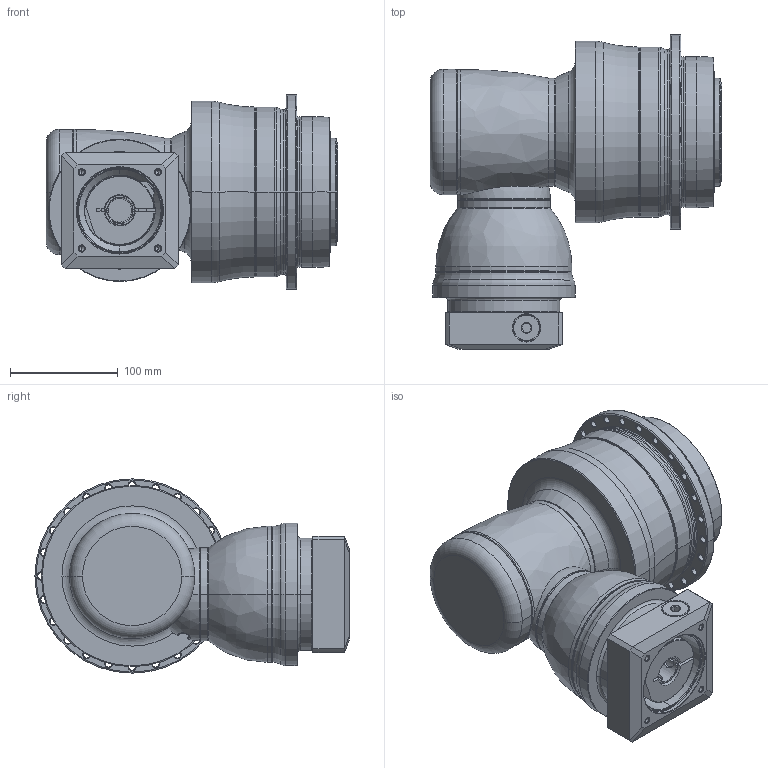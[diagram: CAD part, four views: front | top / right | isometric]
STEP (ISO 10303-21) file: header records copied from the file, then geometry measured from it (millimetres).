
FILE_DESCRIPTION((''),'2;1');
FILE_NAME('APK140_3ST_24-P0409510201_ASM','2018-07-12T',('D00080'),(''),'PRO/ENGINEER BY PARAMETRIC TECHNOLOGY CORPORATION, 2008170','PRO/ENGINEER BY PARAMETRIC TECHNOLOGY CORPORATION, 2008170','');
FILE_SCHEMA(('CONFIG_CONTROL_DESIGN'));
Length unit declared in the file: millimetre
Products named in the file (13): P1008400002; P1832500001; P0278501003; P0359501103; P1211500001; P1315400001; P1007401001; P1318410101; P0503500010; P0129451001; P0409510201; 21711418017; APK140_3ST_24-P0409510201_ASM
Assembly tree (12 placements, depth 2):
  APK140_3ST_24-P0409510201_ASM
    P1008400002
    P1832500001
    P0278501003
    P0359501103
    P1211500001
    P1315400001
    P1007401001
    P1318410101
    P0503500010
    P0129451001
    P0409510201
    21711418017
Bounding box: 270.3 x 291 x 180 mm (x, y, z)
Volume: 5020147.1 mm3; surface area: 545376.7 mm2
Topology: 13 solids, 38 shells, 781 faces, 1777 edges, 1069 vertices
Faces by surface type: cylinder 316, cone 219, plane 132, torus 82, bspline 30, sphere 2
Entity records: 24645 total; most frequent: CARTESIAN_POINT 6491, DIRECTION 4168, ORIENTED_EDGE 3364, AXIS2_PLACEMENT_3D 1786, EDGE_CURVE 1733, VERTEX_POINT 1069, CIRCLE 1000, EDGE_LOOP 934
